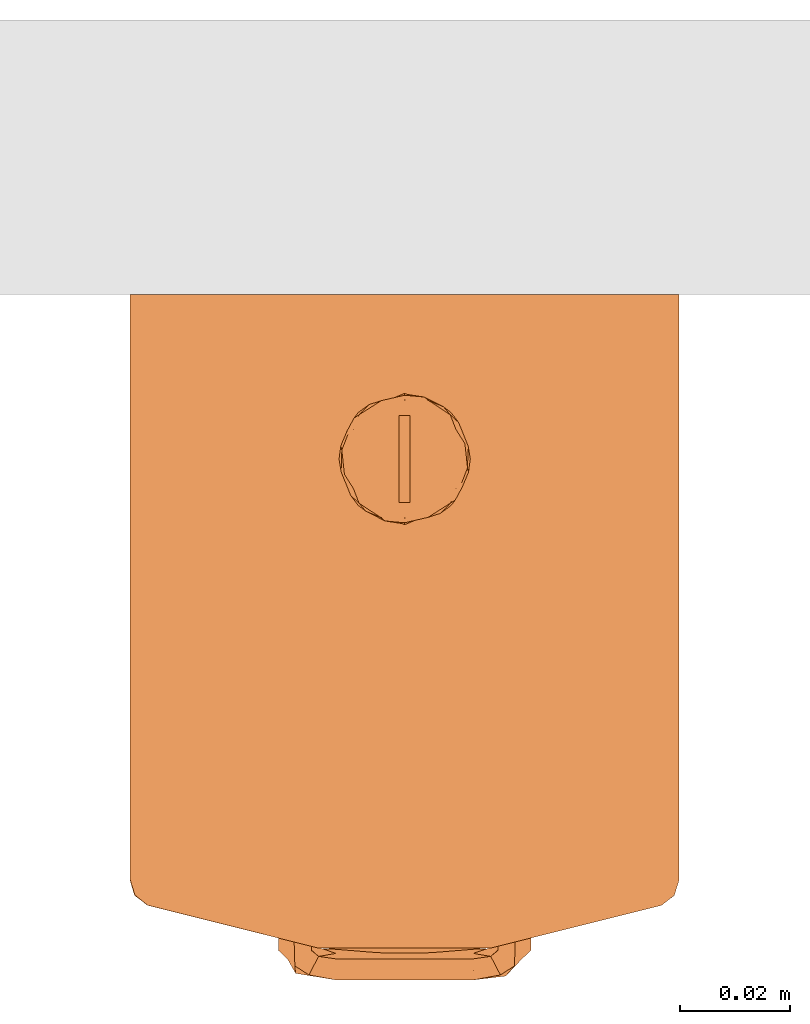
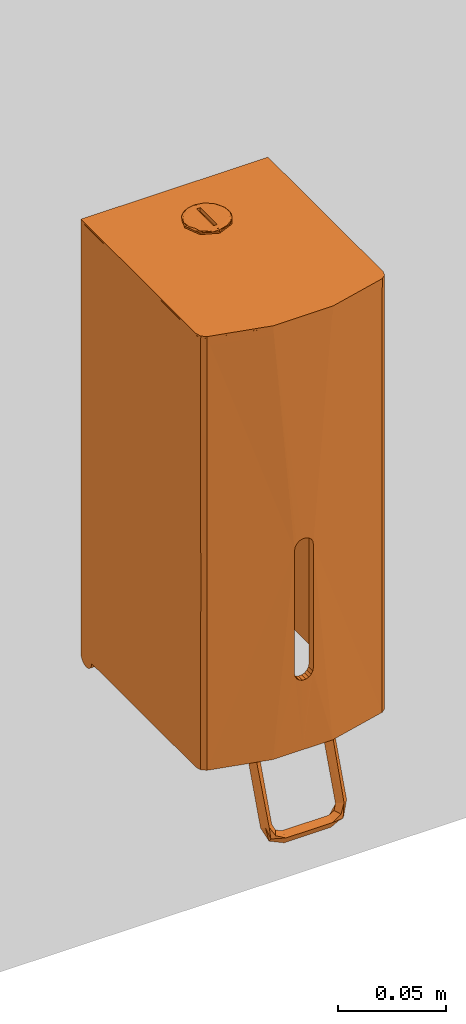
# One storey, part 2 of 2: 1 proxy.
"""IFC2X3 building model written with IfcOpenShell, lengths in millimetres."""

from ifc_helpers import new_model, entity, si_unit, converted_unit, derived_unit, direction, frame, origin, place, context, subcontext, project, spatial, faceted_brep, source, transform, mapped, material, material_list, element, save


model = new_model("IFC2X3")

# Units and contexts
model_context = context("Model", 3, precision=1e-05, world=origin(), true_north=direction((2.0, 6.12303176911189e-17, 1.0)))
context_of_model = context(None, 3, precision=1e-05, world=origin(), true_north=direction((2.0, 6.12303176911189e-17, 1.0)))
body_context = subcontext(model_context, "Body", "Model", "MODEL_VIEW")
ifc_project = project(units=[si_unit("LENGTHUNIT", "METRE", prefix="MILLI"), si_unit("AREAUNIT", "SQUARE_METRE"), si_unit("VOLUMEUNIT", "CUBIC_METRE"), converted_unit("PLANEANGLEUNIT", "DEGREE", entity("IfcRatioMeasure", 0.0174532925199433), si_unit("PLANEANGLEUNIT", "RADIAN"), dimensions=[0, 0, 0, 0, 0, 0, 0]), si_unit("MASSUNIT", "GRAM", prefix="KILO"), si_unit("TIMEUNIT", "SECOND"), si_unit("THERMODYNAMICTEMPERATUREUNIT", "KELVIN"), derived_unit("THERMALTRANSMITTANCEUNIT", [(si_unit("MASSUNIT", "GRAM", prefix="KILO"), 1), (si_unit("THERMODYNAMICTEMPERATUREUNIT", "KELVIN"), -1), (si_unit("TIMEUNIT", "SECOND"), -3)]), derived_unit("VOLUMETRICFLOWRATEUNIT", [(si_unit("LENGTHUNIT", "METRE"), 3), (si_unit("TIMEUNIT", "SECOND"), -1)]), si_unit("POWERUNIT", "WATT")], contexts=[model_context, context_of_model])

# Site, building, storey
site_placement = place(None, origin())
site = spatial("IfcSite", under=ifc_project, at=site_placement, Name="Default", CompositionType="ELEMENT")
building_placement = place(site_placement, origin())
building = spatial("IfcBuilding", under=site, at=building_placement, CompositionType="ELEMENT")
storey_placement = place(building_placement, origin())
storey = spatial("IfcBuildingStorey", under=building, at=storey_placement, Name="Level 1", CompositionType="ELEMENT", Elevation=0.0)

# Proxy
ifc_material = material(Name="Stainless Steel")
ifc_material_list = material_list([ifc_material])
shared_shape = source(origin(), body_context, "Body", "Brep", [
    faceted_brep([(50.0, -3.70546285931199, -4.82962913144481), (50.0, -2.49955808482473, -4.33012701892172), (50.0, -1.4640241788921, -3.53553390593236), (50.0, -0.669431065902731, -2.49999999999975), (50.0, -0.169928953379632, -1.29409522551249), (50.0, 0.000441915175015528, 0.0), (50.0, -0.169928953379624, 1.29409522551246), (50.0, -0.669431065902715, 2.49999999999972), (50.0, -1.46402417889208, 3.53553390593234), (50.0, -2.4995580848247, 4.33012701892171), (50.0, -3.70546285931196, 4.8296291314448), (50.0, -4.99955808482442, 5.0), (50.0, -6.29365331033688, 4.8296291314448), (50.0, -7.49955808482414, 4.33012701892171), (50.0, -8.53509199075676, 3.53553390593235), (50.0, -9.32968510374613, 2.49999999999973), (50.0, -9.82918721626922, 1.29409522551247), (50.0, -9.99955808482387, 0.0), (50.0, -9.82918721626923, -1.29409522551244), (50.0, -9.32968510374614, -2.4999999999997), (50.0, -8.53509199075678, -3.53553390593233), (50.0, -7.49955808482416, -4.3301270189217), (50.0, -6.2936533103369, -4.8296291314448), (50.0, -4.99955808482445, -5.0), (-50.0, -4.99955808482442, 5.0), (-50.0, -3.70546285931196, 4.8296291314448), (-50.0, -2.4995580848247, 4.33012701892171), (-50.0, -1.46402417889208, 3.53553390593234), (-50.0, -0.669431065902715, 2.49999999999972), (-50.0, -0.169928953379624, 1.29409522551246), (-50.0, 0.000441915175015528, 0.0), (-50.0, -0.169928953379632, -1.29409522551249), (-50.0, -0.669431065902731, -2.49999999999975), (-50.0, -1.4640241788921, -3.53553390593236), (-50.0, -2.49955808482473, -4.33012701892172), (-50.0, -3.70546285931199, -4.82962913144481), (-50.0, -4.99955808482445, -5.0), (-50.0, -6.2936533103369, -4.8296291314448), (-50.0, -7.49955808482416, -4.3301270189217), (-50.0, -8.53509199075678, -3.53553390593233), (-50.0, -9.32968510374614, -2.4999999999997), (-50.0, -9.82918721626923, -1.29409522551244), (-50.0, -9.99955808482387, 0.0), (-50.0, -9.82918721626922, 1.29409522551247), (-50.0, -9.32968510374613, 2.49999999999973), (-50.0, -8.53509199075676, 3.53553390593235), (-50.0, -7.49955808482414, 4.33012701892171), (-50.0, -6.29365331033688, 4.8296291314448)], [[[0, 1, 2, 3, 4, 5, 6, 7, 8, 9, 10, 11, 12, 13, 14, 15, 16, 17, 18, 19, 20, 21, 22, 23]], [[24, 25, 26, 27, 28, 29, 30, 31, 32, 33, 34, 35, 36, 37, 38, 39, 40, 41, 42, 43, 44, 45, 46, 47]], [[41, 18, 17, 42]], [[40, 19, 18, 41]], [[21, 20, 39, 38]], [[40, 39, 20, 19]], [[22, 21, 38, 37]], [[23, 22, 37, 36]], [[35, 0, 23, 36]], [[3, 32, 31, 4]], [[32, 3, 2, 33]], [[4, 31, 30, 5]], [[0, 35, 34, 1]], [[1, 34, 33, 2]], [[29, 6, 5, 30]], [[28, 7, 6, 29]], [[9, 8, 27, 26]], [[28, 27, 8, 7]], [[10, 9, 26, 25]], [[24, 11, 10, 25]], [[14, 13, 46, 45]], [[15, 44, 43, 16]], [[45, 44, 15, 14]], [[42, 17, 16, 43]], [[47, 46, 13, 12]], [[12, 11, 24, 47]]]),
    faceted_brep([(-1.0, -37.8953073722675, 245.0), (0.0, -37.8953073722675, 245.0), (0.0, -41.9566118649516, 245.0), (-4.22745690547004, -40.2055418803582, 245.0), (-8.45491381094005, -38.4544718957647, 245.0), (-10.2059837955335, -34.2270149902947, 245.0), (-11.957053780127, -29.9995580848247, 245.0), (-1.0, -22.1038087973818, 245.0), (1.0, -37.8953073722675, 245.0), (3.39699346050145, -40.5495311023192, 245.0), (8.45491381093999, -38.4544718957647, 245.0), (10.2059837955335, -34.2270149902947, 245.0), (11.957053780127, -29.9995580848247, 245.0), (1.0, -22.1038087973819, 245.0), (10.2059837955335, -25.7721011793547, 245.0), (8.45491381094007, -21.5446442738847, 245.0), (4.22745690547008, -19.7935742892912, 245.0), (0.0, -18.0425043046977, 245.0), (0.0, -22.1038087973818, 245.0), (-3.39699346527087, -19.4495850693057, 245.0), (-10.2059837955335, -25.7721011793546, 245.0), (-8.45491381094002, -21.5446442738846, 245.0), (-4.22745690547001, -19.7935742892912, 245.867617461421), (0.0, -18.0425043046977, 245.867617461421), (-8.45491381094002, -21.5446442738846, 245.867617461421), (-11.957053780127, -29.9995580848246, 245.867617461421), (-10.2059837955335, -25.7721011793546, 245.867617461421), (-3.39699346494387, -40.5495311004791, 245.867617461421), (-4.22745690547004, -40.2055418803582, 245.867617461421), (-8.45491381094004, -38.4544718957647, 245.867617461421), (0.0, -41.9566118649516, 245.867617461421), (-10.2059837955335, -34.2270149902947, 245.867617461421), (4.22745690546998, -40.2055418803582, 245.867617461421), (8.45491381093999, -38.4544718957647, 245.867617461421), (11.957053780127, -29.9995580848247, 245.867617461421), (10.2059837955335, -34.2270149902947, 245.867617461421), (3.39699346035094, -19.4495850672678, 245.867617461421), (4.22745690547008, -19.7935742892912, 245.867617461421), (8.45491381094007, -21.5446442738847, 245.867617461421), (10.2059837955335, -25.7721011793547, 245.867617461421), (-9.22054860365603, -22.5398596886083, 246.336000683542), (-6.48578840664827, -20.0867554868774, 246.367595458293), (-11.4448129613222, -28.3812704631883, 246.752347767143), (-11.5742524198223, -32.3340651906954, 246.443277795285), (-10.9683543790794, -32.804919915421, 246.915497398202), (-8.30054743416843, -21.9387966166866, 246.741782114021), (-9.33183886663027, -24.6118184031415, 247.049191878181), (-3.90861672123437, -21.480719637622, 247.049191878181), (-4.25678197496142, -19.3739534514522, 246.840126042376), (0.0, -19.2240787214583, 247.049191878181), (0.0, -18.3885794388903, 246.703116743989), (-11.6235439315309, -27.5908834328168, 246.311547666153), (-10.5037102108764, -24.9168775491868, 246.640950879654), (-8.30054742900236, -38.0603195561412, 246.741782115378), (-9.82672212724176, -36.6471070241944, 246.327239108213), (-7.08327225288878, -39.498208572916, 246.361403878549), (-4.36753238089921, -40.6492692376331, 246.792743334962), (-3.5730676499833, -41.2827042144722, 246.389853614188), (0.0, -40.7750374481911, 247.049191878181), (-3.90861672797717, -38.5183965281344, 247.049191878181), (-9.33183886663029, -35.3872977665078, 247.049191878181), (0.0, -18.1659415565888, 246.165621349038), (-10.4168810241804, -25.7262066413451, 246.945573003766), (-9.33183886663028, -29.9995580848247, 247.049191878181), (0.0, -41.610536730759, 246.703116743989), (0.0, -41.8331746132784, 246.165621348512), (9.22054860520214, -37.4592564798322, 246.33600068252), (6.48578840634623, -39.9123606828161, 246.367595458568), (11.444812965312, -31.617845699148, 246.752347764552), (11.5742524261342, -27.6650509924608, 246.443277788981), (10.9683543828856, -27.1941962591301, 246.915497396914), (8.3005474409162, -38.0603195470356, 246.741782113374), (9.33183886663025, -35.3872977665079, 247.049191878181), (3.90861671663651, -38.5183965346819, 247.049191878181), (4.2567819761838, -40.6251627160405, 246.840126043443), (11.623543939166, -32.4082327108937, 246.311547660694), (10.5037102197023, -35.0822386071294, 246.640950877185), (8.30054743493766, -21.9387966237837, 246.741782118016), (9.82672215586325, -23.3520091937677, 246.327239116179), (7.08327229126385, -20.5009076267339, 246.361403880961), (4.36753238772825, -19.3498469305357, 246.792743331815), (3.5730677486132, -18.7164119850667, 246.389853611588), (3.90861673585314, -21.4807196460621, 247.049191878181), (9.3318388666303, -24.6118184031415, 247.049191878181), (10.4168810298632, -34.2729095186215, 246.945573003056), (9.33183886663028, -29.9995580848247, 247.049191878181), (0.0, -37.8953073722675, 247.049191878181), (-1.0, -37.8953073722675, 247.049191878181), (1.0, -37.8953073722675, 247.049191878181), (1.0, -22.1038087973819, 247.049191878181), (0.0, -22.1038087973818, 247.049191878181), (-1.0, -22.1038087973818, 247.049191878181)], [[[0, 1, 2]], [[0, 2, 3]], [[0, 3, 4]], [[0, 4, 5]], [[0, 5, 6]], [[7, 0, 6]], [[8, 2, 1]], [[8, 9, 2]], [[8, 10, 9]], [[8, 11, 10]], [[8, 12, 11]], [[12, 8, 13]], [[13, 14, 12]], [[13, 15, 14]], [[13, 16, 15]], [[13, 17, 16]], [[18, 17, 13]], [[7, 17, 18]], [[7, 19, 17]], [[7, 6, 20]], [[7, 20, 21]], [[7, 21, 19]], [[22, 23, 17, 19, 21, 24]], [[6, 25, 26, 24, 21, 20]], [[27, 28, 29, 4, 3, 2, 30]], [[25, 6, 5, 4, 29, 31]], [[32, 30, 2, 9, 10, 33]], [[12, 34, 35, 33, 10, 11]], [[36, 37, 38, 15, 16, 17, 23]], [[34, 12, 14, 15, 38, 39]], [[24, 40, 41]], [[42, 43, 44]], [[45, 46, 47]], [[48, 49, 50]], [[51, 52, 40]], [[42, 51, 43]], [[40, 45, 41]], [[53, 54, 55]], [[41, 48, 50]], [[24, 41, 22]], [[53, 55, 56]], [[56, 55, 57]], [[58, 59, 56]], [[53, 59, 60]], [[22, 50, 61, 23]], [[43, 31, 54]], [[48, 41, 45]], [[45, 52, 62]], [[50, 22, 41]], [[62, 63, 46]], [[45, 47, 48]], [[49, 48, 47]], [[51, 42, 52]], [[52, 45, 40]], [[40, 24, 26]], [[51, 40, 26]], [[62, 52, 42]], [[26, 25, 51]], [[43, 51, 25]], [[31, 29, 54]], [[44, 63, 42]], [[44, 53, 60]], [[44, 43, 54]], [[63, 44, 60]], [[63, 62, 42]], [[45, 62, 46]], [[43, 25, 31]], [[55, 54, 29]], [[54, 53, 44]], [[56, 57, 64]], [[65, 28, 27, 30]], [[55, 29, 28]], [[58, 56, 64]], [[59, 53, 56]], [[57, 55, 28]], [[28, 65, 57]], [[64, 57, 65]], [[33, 66, 67]], [[68, 69, 70]], [[71, 72, 73]], [[74, 58, 64]], [[75, 76, 66]], [[68, 75, 69]], [[66, 71, 67]], [[77, 78, 79]], [[33, 67, 32]], [[77, 79, 80]], [[79, 81, 80]], [[67, 74, 64]], [[49, 82, 80]], [[77, 82, 83]], [[32, 64, 65, 30]], [[69, 39, 78]], [[74, 67, 71]], [[71, 76, 84]], [[64, 32, 67]], [[84, 85, 72]], [[71, 73, 74]], [[58, 74, 73]], [[75, 68, 76]], [[76, 71, 66]], [[66, 33, 35]], [[75, 66, 35]], [[84, 76, 68]], [[35, 34, 75]], [[69, 75, 34]], [[39, 38, 78]], [[70, 85, 68]], [[70, 77, 83]], [[70, 69, 78]], [[85, 70, 83]], [[85, 84, 68]], [[71, 84, 72]], [[69, 34, 39]], [[79, 78, 38]], [[78, 77, 70]], [[80, 81, 50]], [[61, 37, 36, 23]], [[79, 38, 37]], [[49, 80, 50]], [[82, 77, 80]], [[81, 79, 37]], [[37, 61, 81]], [[50, 81, 61]], [[58, 86, 87]], [[86, 58, 88]], [[88, 58, 73]], [[87, 59, 58]], [[88, 73, 72]], [[88, 72, 89]], [[89, 72, 85]], [[89, 85, 83]], [[89, 83, 82]], [[89, 82, 49]], [[49, 90, 89]], [[90, 49, 91]], [[91, 49, 47]], [[91, 47, 46]], [[91, 46, 63]], [[91, 63, 60]], [[87, 60, 59]], [[91, 60, 87]], [[0, 7, 91, 87]], [[0, 87, 86, 88, 8, 1]], [[13, 8, 88, 89]], [[13, 89, 90, 91, 7, 18]]]),
    faceted_brep([(50.0, 0.000461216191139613, 245.0), (-50.0, 0.000461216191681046, 245.0), (-50.0, -106.618576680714, 245.0), (-49.1231056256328, -109.44700380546, 245.0), (-46.8000000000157, -111.28333819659, 245.0), (-15.918226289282, -119.02128141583, 245.0), (15.9182262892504, -119.02128141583, 245.0), (46.7999999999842, -111.283338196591, 245.0), (49.1231056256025, -109.447003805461, 245.0), (50.0, -106.618576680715, 245.0), (-50.0, 0.000461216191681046, 240.0), (50.0, 0.000461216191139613, 240.0), (50.0, -106.618576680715, 240.0), (49.1231056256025, -109.447003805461, 240.0), (46.7999999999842, -111.283338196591, 240.0), (15.9182262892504, -119.02128141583, 240.0), (-15.918226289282, -119.02128141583, 240.0), (-46.8000000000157, -111.28333819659, 240.0), (-49.1231056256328, -109.44700380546, 240.0), (-50.0, -106.618576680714, 240.0)], [[[0, 1, 2, 3, 4, 5, 6, 7, 8, 9]], [[10, 11, 12, 13, 14, 15, 16, 17, 18, 19]], [[2, 1, 10, 19]], [[0, 9, 12, 11]], [[1, 0, 11, 10]], [[2, 19, 18, 3]], [[18, 17, 4, 3]], [[17, 16, 5, 4]], [[16, 15, 6, 5]], [[15, 14, 7, 6]], [[7, 14, 13, 8]], [[13, 12, 9, 8]]]),
    faceted_brep([(-16.9966200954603, -98.1250000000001, 22.7904612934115), (-20.0, -95.3027460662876, 21.7632448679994), (-23.0033799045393, -98.125, 22.7904612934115), (-20.0, -100.947253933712, 23.8176777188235), (23.0033799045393, -98.125, 22.7904612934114), (20.0, -95.3027460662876, 21.7632448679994), (16.9966200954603, -98.1250000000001, 22.7904612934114), (20.0, -100.947253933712, 23.8176777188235), (-16.9966200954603, -109.153071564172, -7.50891630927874), (-16.9966200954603, -108.47318867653, -5.64095342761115), (-20.0, -122.323512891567, -34.9131110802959), (-18.6574949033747, -121.061970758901, -35.3722748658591), (-16.9966200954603, -119.501258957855, -35.9403275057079), (-20.3160295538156, -111.619715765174, -5.55341972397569), (-23.0033799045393, -109.153070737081, -7.50891403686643), (-23.0033799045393, -119.501258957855, -35.9403275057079), (-23.0033799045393, -108.473188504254, -5.6409529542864), (-21.3425050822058, -121.061970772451, -35.3722748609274), (-20.0, -116.679005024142, -36.96754393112), (-19.6839704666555, -106.006543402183, -7.59644707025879), (-18.6574949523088, -117.940547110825, -36.5083801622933), (-15.6795905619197, -120.58874297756, -38.9281652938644), (-12.5, -124.88866396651, -41.9608057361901), (-12.5, -123.16795804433, -41.1584273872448), (-17.4350023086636, -123.968619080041, -39.5660611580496), (-12.5, -121.039193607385, -40.1657682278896), (-19.9270111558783, -122.04144637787, -42.9194350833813), (-12.5000000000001, -123.093626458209, -45.8102760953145), (-12.5000000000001, -124.086285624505, -43.6815116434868), (-19.8624850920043, -123.67873144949, -40.6916239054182), (-12.5, -120.046534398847, -42.2945327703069), (-18.9006206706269, -119.274079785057, -42.834412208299), (-12.5, -119.244156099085, -44.0152385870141), (12.4999999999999, -123.093626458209, -45.8102760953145), (12.4999999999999, -124.086285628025, -43.681511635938), (12.5, -124.88866396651, -41.96080573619), (12.5, -121.039193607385, -40.1657682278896), (12.5, -123.16795804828, -41.158427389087), (12.5, -120.046534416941, -42.2945327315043), (12.5, -119.244156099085, -44.0152385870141), (15.6795905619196, -120.58874297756, -38.9281652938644), (20.0, -122.323512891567, -34.9131110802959), (18.6574949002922, -121.061970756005, -35.3722748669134), (17.4350023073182, -123.968619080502, -39.5660611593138), (16.9966200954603, -119.501258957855, -35.940327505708), (19.9270111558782, -122.04144637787, -42.9194350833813), (23.0033799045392, -119.501258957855, -35.9403275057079), (21.3425050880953, -121.061970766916, -35.3722748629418), (18.3935379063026, -124.181140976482, -42.0719827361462), (18.6574949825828, -117.940547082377, -36.5083801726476), (18.9006206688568, -119.274079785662, -42.8344122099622), (20.0, -116.679005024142, -36.96754393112), (16.9966200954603, -108.473188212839, -5.64095215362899), (16.9966200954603, -109.153070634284, -7.50891375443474), (20.3160295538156, -111.61971545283, -5.55341886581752), (23.0033799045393, -108.473188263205, -5.64095229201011), (23.0033799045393, -109.153070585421, -7.50891362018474), (19.6839704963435, -106.006542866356, -7.59644560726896)], [[[0, 1, 2, 3]], [[4, 5, 6, 7]], [[8, 9, 10, 11, 12]], [[9, 0, 3]], [[9, 13, 10]], [[14, 15, 13, 2, 16]], [[13, 15, 17, 10]], [[9, 3, 13]], [[2, 13, 3]], [[18, 15, 14, 16]], [[16, 2, 1]], [[8, 12, 19, 0, 9]], [[16, 19, 18]], [[16, 1, 19]], [[0, 19, 1]], [[19, 12, 20, 18]], [[21, 12, 11]], [[22, 23, 24]], [[21, 23, 25]], [[24, 11, 10]], [[26, 27, 28]], [[24, 23, 21]], [[10, 17, 29]], [[28, 29, 26]], [[26, 17, 15]], [[21, 11, 24]], [[24, 29, 22]], [[28, 22, 29]], [[10, 29, 24]], [[29, 17, 26]], [[30, 31, 20]], [[21, 25, 30]], [[27, 31, 32]], [[15, 18, 31]], [[20, 21, 30]], [[31, 30, 32]], [[21, 20, 12]], [[26, 31, 27]], [[15, 31, 26]], [[20, 31, 18]], [[27, 33, 34, 35, 22, 28]], [[36, 25, 23, 22, 35, 37]], [[25, 36, 38, 39, 32, 30]], [[32, 39, 33, 27]], [[40, 36, 37]], [[41, 42, 43]], [[40, 42, 44]], [[43, 37, 35]], [[45, 46, 47]], [[43, 42, 40]], [[35, 34, 48]], [[47, 48, 45]], [[45, 34, 33]], [[40, 37, 43]], [[43, 48, 41]], [[47, 41, 48]], [[35, 48, 43]], [[48, 34, 45]], [[49, 50, 38]], [[40, 44, 49]], [[46, 50, 51]], [[33, 39, 50]], [[38, 40, 49]], [[50, 49, 51]], [[40, 38, 36]], [[45, 50, 46]], [[33, 50, 45]], [[38, 50, 39]], [[7, 6, 52, 53]], [[53, 44, 42, 41]], [[53, 54, 7]], [[55, 4, 54, 46, 56]], [[4, 7, 54]], [[53, 41, 54]], [[54, 41, 47, 46]], [[56, 57, 5]], [[6, 5, 57]], [[57, 44, 53, 52, 6]], [[5, 4, 55, 56]], [[46, 51, 56]], [[56, 51, 57]], [[57, 51, 49, 44]]]),
    faceted_brep([(49.9498995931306, -106.618595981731, 244.0), (49.9498995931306, 0.000441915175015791, 244.0), (44.9498995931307, -97.9128959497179, 244.0), (46.7498995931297, -111.283357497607, 244.0), (49.073005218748, -109.447023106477, 244.0), (44.9498995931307, -4.99955808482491, 244.0), (-45.0501004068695, -4.99955808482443, 244.0), (-50.0501004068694, 0.000441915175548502, 244.0), (-45.0501004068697, -97.9128959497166, 244.0), (-50.0501004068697, -106.61859598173, 244.0), (-46.8501004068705, -111.283357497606, 244.0), (-49.1732060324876, -109.447023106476, 244.0), (-31.7679290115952, -107.73907434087, 244.0), (-15.9683266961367, -119.021300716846, 244.0), (-16.4380246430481, -113.900558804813, 244.0), (-0.0501004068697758, -115.999558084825, 244.0), (15.8681258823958, -119.021300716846, 244.0), (16.3378238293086, -113.900558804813, 244.0), (31.6677281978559, -107.739074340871, 244.0), (-50.0501004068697, -106.61859598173, 0.0), (-50.0501004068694, 0.000441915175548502, 0.0), (-45.0501004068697, -97.9128959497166, 0.0), (-46.8501004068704, -111.283357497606, 0.0), (-49.1732060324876, -109.447023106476, 0.0), (-45.0501004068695, -4.99955808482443, 0.0), (44.9498995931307, -4.99955808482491, 0.0), (49.9498995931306, 0.000441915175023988, 0.0), (44.9498995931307, -97.9128959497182, 0.0), (49.9498995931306, -106.618595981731, 0.0), (46.7498995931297, -111.283357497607, 0.0), (49.073005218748, -109.447023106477, 0.0), (31.6677281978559, -107.739074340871, 0.0), (15.8681258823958, -119.021300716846, 0.0), (16.3378238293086, -113.900558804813, 0.0), (8.1438617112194, -114.950058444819, 0.0), (4.04688065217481, -115.474808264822, 0.0), (-0.0501004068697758, -115.999558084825, 0.0), (-0.0501004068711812, -119.021300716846, 0.0), (-15.9683266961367, -119.021300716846, 0.0), (-31.7679290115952, -107.73907434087, 0.0), (-16.4380246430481, -113.900558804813, 0.0), (-8.24406252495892, -114.950058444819, 0.0), (-4.14708146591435, -115.474808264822, 0.0), (-50.0501004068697, -106.61859598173, 19.5192227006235), (-50.0501004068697, -106.61859598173, 39.0384439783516), (-50.0501004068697, -106.61859598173, 61.0), (-50.0501004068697, -106.61859598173, 91.4999992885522), (-50.0501004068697, -106.61859598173, 122.0), (-50.0501004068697, -106.61859598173, 152.500000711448), (-50.0501004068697, -106.61859598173, 183.0), (-50.0501004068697, -106.61859598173, 204.961556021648), (-50.0501004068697, -106.61859598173, 224.480777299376), (49.9498995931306, -106.618595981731, 224.48077634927), (49.9498995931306, -106.618595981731, 204.961573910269), (49.9498995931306, -106.618595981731, 185.442350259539), (49.9498995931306, -106.618595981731, 165.92312660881), (49.9498995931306, -106.618595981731, 146.40390295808), (49.9498995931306, -106.618595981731, 126.88467930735), (49.9498995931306, -106.618595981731, 107.36545565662), (49.9498995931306, -106.618595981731, 87.8462320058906), (49.9498995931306, -106.618595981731, 65.8846687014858), (49.9498995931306, -106.618595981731, 43.923105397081), (49.9498995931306, -106.618595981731, 19.5192236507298), (5.0, -115.803152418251, 45.0), (5.0, -115.803152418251, 115.0), (4.69835477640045, -115.825945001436, 116.710398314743), (2.50060594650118, -115.94951020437, 119.329777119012), (0.867725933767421, -115.993080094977, 119.924129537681), (3.82959456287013, -115.883712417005, 118.214685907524), (4.69846126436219, -115.825937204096, 43.2898942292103), (0.868966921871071, -115.993062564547, 40.0760893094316), (2.50097611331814, -115.949495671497, 40.6704366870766), (-0.867538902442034, -115.994419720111, 40.0758375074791), (-2.5008646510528, -115.953356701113, 119.329627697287), (-0.868780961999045, -115.994404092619, 119.923943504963), (-3.83099668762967, -115.889542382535, 118.213014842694), (-4.69845883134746, -115.833196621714, 116.710112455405), (-5.0, -115.81088023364, 115.0), (3.83102989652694, -115.883626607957, 41.7870247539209), (-2.50049468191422, -115.953370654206, 40.6701586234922), (-3.82956116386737, -115.889625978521, 41.7852743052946), (-4.69835229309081, -115.833204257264, 43.2895948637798), (-5.0, -115.81088023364, 45.0), (5.0, -119.901430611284, 115.0), (2.50029667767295, -119.974538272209, 119.329955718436), (4.69847345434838, -119.912802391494, 116.710072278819), (3.82965780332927, -119.941650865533, 118.214610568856), (0.86743361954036, -119.996320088, 119.924181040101), (-2.50063614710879, -119.976459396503, 119.329759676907), (-4.69857939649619, -119.916422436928, 116.709781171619), (-3.83108677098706, -119.944562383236, 118.21290742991), (-5.0, -119.90528734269, 115.0), (-0.868625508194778, -119.996981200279, 119.923970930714), (-5.0, -119.90528734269, 45.0), (-2.50026894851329, -119.976466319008, 40.6700282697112), (-4.69847283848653, -119.916426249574, 43.289926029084), (-3.82964949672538, -119.944604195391, 41.7853795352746), (-0.86738697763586, -119.996988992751, 40.0758107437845), (0.868671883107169, -119.996311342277, 40.0760372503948), (2.50066392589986, -119.974531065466, 40.670256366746), (4.6985799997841, -119.912798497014, 43.290220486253), (3.83109503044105, -119.941607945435, 41.7871024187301), (5.0, -119.901430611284, 45.0), (-49.173206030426, -109.447023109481, 193.980779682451), (-49.2908776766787, -109.267333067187, 170.632421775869), (-46.8501004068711, -111.283357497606, 43.9231115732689), (-49.249153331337, -109.332993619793, 50.0192260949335), (-49.1732062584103, -109.44702277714, 21.4808424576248), (-49.1732060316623, -109.447023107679, 216.732066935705), (-46.8501004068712, -111.283357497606, 19.5192227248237), (-46.850100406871, -111.283357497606, 65.8846685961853), (-49.2159779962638, -109.383639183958, 75.2901712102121), (-46.8501004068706, -111.283357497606, 185.442334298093), (-46.8501004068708, -111.283357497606, 146.403891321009), (-49.2807758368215, -109.283438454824, 136.644283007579), (-46.8501004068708, -111.283357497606, 126.884668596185), (-46.8501004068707, -111.283357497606, 165.923111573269), (-46.8501004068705, -111.283357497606, 224.480777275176), (-46.8501004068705, -111.283357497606, 204.961557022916), (-49.055021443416, -109.612023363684, 111.793083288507), (-46.8501004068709, -111.283357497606, 87.8462256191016), (-46.8501004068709, -111.283357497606, 107.365445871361), (46.7498995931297, -111.283357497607, 19.5192246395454), (46.7498995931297, -111.283357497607, 39.0384464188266), (46.7498995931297, -111.283357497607, 61.0000021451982), (46.7498995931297, -111.283357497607, 91.5000017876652), (46.7498995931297, -111.283357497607, 122.000001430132), (46.7498995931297, -111.283357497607, 152.500001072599), (46.7498995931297, -111.283357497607, 183.000000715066), (46.7498995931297, -111.283357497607, 204.961556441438), (46.7498995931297, -111.283357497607, 224.480778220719), (49.073005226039, -109.447023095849, 193.980779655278), (48.9477247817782, -109.62149354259, 170.632421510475), (48.9939621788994, -109.558928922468, 50.01922562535), (49.0730050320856, -109.447023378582, 21.4808419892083), (49.0730052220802, -109.44702310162, 216.732066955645), (48.9591136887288, -109.606271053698, 136.644282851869), (49.0292689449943, -109.509745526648, 75.2901713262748), (49.1843961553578, -109.277362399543, 111.793082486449)], [[[0, 1, 2]], [[0, 2, 3]], [[4, 0, 3]], [[5, 2, 1]], [[1, 6, 5]], [[7, 6, 1]], [[7, 8, 6]], [[7, 9, 8]], [[10, 8, 9]], [[11, 10, 9]], [[10, 12, 8]], [[10, 13, 12]], [[12, 13, 14]], [[13, 15, 14]], [[15, 13, 16]], [[16, 17, 15]], [[18, 17, 16]], [[18, 16, 3]], [[2, 18, 3]], [[19, 20, 21]], [[19, 21, 22]], [[23, 19, 22]], [[24, 21, 20]], [[20, 25, 24]], [[26, 25, 20]], [[26, 27, 25]], [[26, 28, 27]], [[29, 27, 28]], [[30, 29, 28]], [[29, 31, 27]], [[29, 32, 31]], [[31, 32, 33]], [[32, 34, 33]], [[32, 35, 34]], [[32, 36, 35]], [[36, 32, 37]], [[36, 37, 38]], [[39, 38, 22]], [[39, 40, 38]], [[38, 40, 41]], [[38, 41, 42]], [[38, 42, 36]], [[21, 39, 22]], [[7, 1, 26, 20]], [[7, 20, 19, 43, 44, 45, 46, 47, 48, 49, 50, 51, 9]], [[1, 0, 52, 53, 54, 55, 56, 57, 58, 59, 60, 61, 62, 28, 26]], [[2, 5, 25, 27]], [[17, 18, 31, 33]], [[17, 33, 63, 64]], [[2, 27, 31, 18]], [[64, 65, 17]], [[66, 67, 15]], [[65, 68, 15]], [[68, 66, 15]], [[65, 15, 17]], [[69, 63, 35]], [[35, 63, 33, 34]], [[36, 70, 71]], [[70, 36, 72]], [[71, 35, 36]], [[73, 15, 74]], [[15, 73, 75]], [[75, 76, 15]], [[12, 14, 40, 39]], [[14, 76, 77]], [[15, 76, 14]], [[21, 8, 12, 39]], [[78, 69, 35]], [[42, 79, 36]], [[78, 35, 71]], [[80, 79, 42]], [[81, 42, 82]], [[40, 14, 77, 82]], [[80, 42, 81]], [[82, 42, 41, 40]], [[72, 36, 79]], [[15, 67, 74]], [[6, 8, 21, 24]], [[5, 6, 24, 25]], [[65, 64, 83]], [[84, 67, 66]], [[68, 65, 85]], [[66, 68, 86]], [[65, 83, 85]], [[86, 84, 66]], [[68, 85, 86]], [[67, 84, 87]], [[87, 74, 67]], [[88, 73, 74]], [[76, 75, 89]], [[90, 75, 73]], [[76, 91, 77]], [[88, 74, 92]], [[90, 73, 88]], [[76, 89, 91]], [[90, 89, 75]], [[87, 92, 74]], [[77, 91, 93, 82]], [[81, 82, 93]], [[94, 72, 79]], [[80, 81, 95]], [[79, 80, 96]], [[81, 93, 95]], [[96, 94, 79]], [[80, 95, 96]], [[72, 94, 97]], [[97, 98, 72]], [[99, 71, 70]], [[69, 78, 100]], [[101, 78, 71]], [[69, 102, 63]], [[99, 70, 98]], [[101, 71, 99]], [[69, 100, 102]], [[101, 100, 78]], [[72, 98, 70]], [[64, 63, 102, 83]], [[103, 49, 104]], [[105, 106, 107]], [[44, 106, 45]], [[50, 49, 103, 108, 11, 9, 51]], [[43, 19, 23]], [[107, 23, 109]], [[106, 110, 111]], [[43, 107, 44]], [[104, 112, 103]], [[113, 114, 115]], [[112, 104, 113, 116]], [[49, 48, 104]], [[117, 10, 11, 108, 103, 112, 118]], [[23, 22, 109]], [[105, 107, 109]], [[107, 43, 23]], [[46, 111, 119]], [[119, 111, 120]], [[45, 106, 111]], [[46, 45, 111]], [[119, 115, 114]], [[114, 47, 119]], [[114, 104, 48]], [[104, 114, 113]], [[48, 47, 114]], [[46, 119, 47]], [[119, 120, 121, 115]], [[110, 106, 105]], [[110, 120, 111]], [[44, 107, 106]], [[91, 22, 38]], [[93, 38, 95]], [[91, 38, 93]], [[96, 37, 94]], [[95, 38, 37]], [[95, 37, 96]], [[32, 100, 37]], [[10, 91, 13]], [[91, 10, 117, 118, 112, 116, 113, 115, 121, 120, 110, 105, 109, 22]], [[13, 91, 89]], [[89, 90, 13]], [[88, 92, 13]], [[90, 88, 13]], [[13, 92, 16]], [[98, 37, 99]], [[99, 37, 101]], [[102, 32, 83]], [[102, 100, 32]], [[32, 29, 83]], [[100, 101, 37]], [[97, 37, 98]], [[84, 86, 16]], [[87, 84, 16]], [[85, 83, 16]], [[94, 37, 97]], [[3, 16, 83]], [[83, 29, 122, 123, 124, 125, 126, 127, 128, 129, 130, 3]], [[85, 16, 86]], [[87, 16, 92]], [[131, 128, 132]], [[61, 133, 134]], [[123, 133, 124]], [[129, 128, 131, 135, 4, 3, 130]], [[122, 29, 30]], [[134, 30, 62]], [[122, 134, 123]], [[54, 132, 56, 55]], [[132, 54, 131]], [[56, 136, 57]], [[133, 60, 137]], [[128, 127, 132]], [[52, 0, 4, 135, 131, 54, 53]], [[30, 28, 62]], [[61, 134, 62]], [[134, 122, 30]], [[125, 137, 138]], [[138, 137, 59]], [[124, 133, 137]], [[125, 124, 137]], [[138, 57, 136]], [[136, 126, 138]], [[136, 132, 127]], [[132, 136, 56]], [[127, 126, 136]], [[125, 138, 126]], [[138, 59, 58, 57]], [[60, 133, 61]], [[60, 59, 137]], [[123, 134, 133]]]),
])
proxy_placement = place(storey_placement, frame((1211.17987533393, 3952.698533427, 70.8860498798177)))
element("IfcBuildingElementProxy", 1, at=proxy_placement, inside=storey, material=ifc_material_list, Name="BC823:BC823 Dolphin Surface Mounted Soap Dispenser", ObjectType="BC823 Dolphin Surface Mounted Soap Dispenser", CompositionType="ELEMENT", context=body_context, shape_type="MappedRepresentation", body=[
    mapped(shared_shape, transform((0.0, 0.0, 0.0), scale=1.0)),
])

save(model, "model.ifc")
